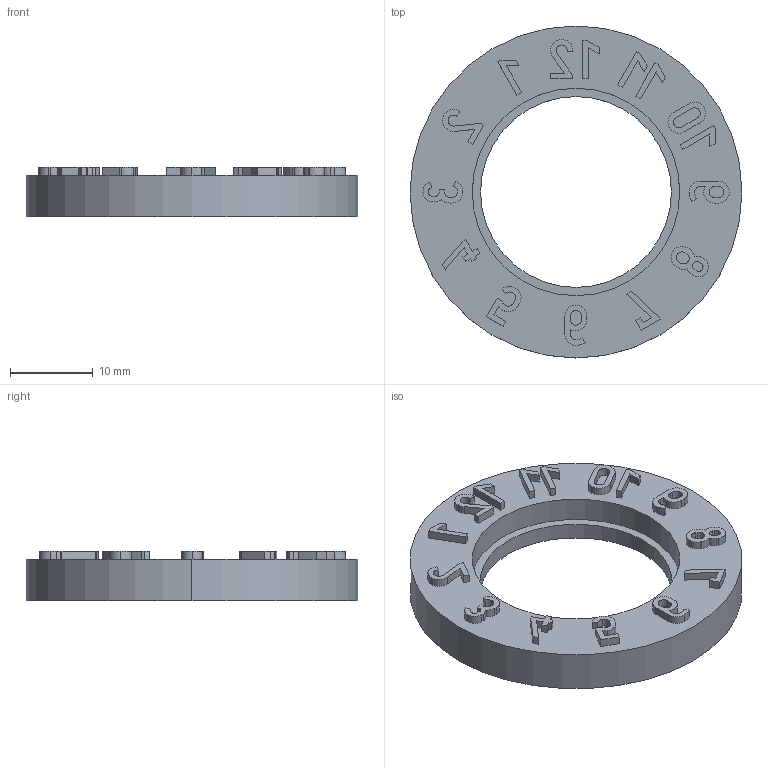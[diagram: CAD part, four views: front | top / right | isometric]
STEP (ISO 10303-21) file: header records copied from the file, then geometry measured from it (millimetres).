
FILE_DESCRIPTION (( 'STEP AP203' ), '1' );
FILE_NAME ('DLSR40.step', '2022-03-19T03:03:17', ( 'Microsoft Corporation' ), ( 'MS' ), 'SwSTEP 2.0', 'SolidWorks 2019', '' );
FILE_SCHEMA (( 'CONFIG_CONTROL_DESIGN' ));
Length unit declared in the file: inch
Products named in the file (1): DLSR40
Bounding box: 40 x 40 x 6 mm (x, y, z)
Volume: 4062.6 mm3; surface area: 2953.3 mm2
Topology: 1 solids, 1 shells, 216 faces, 579 edges, 386 vertices
Faces by surface type: plane 138, cylinder 78
Entity records: 6842 total; most frequent: CARTESIAN_POINT 1182, DIRECTION 1169, ORIENTED_EDGE 1158, EDGE_CURVE 579, LINE 423, VECTOR 423, VERTEX_POINT 386, AXIS2_PLACEMENT_3D 373
